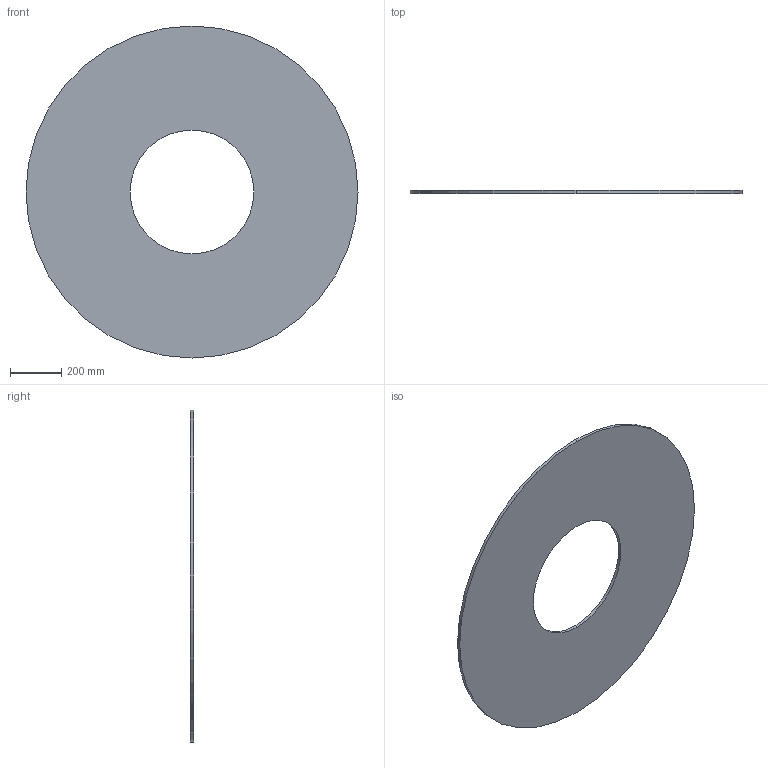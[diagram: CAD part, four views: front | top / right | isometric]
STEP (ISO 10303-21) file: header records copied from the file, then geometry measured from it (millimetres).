
FILE_DESCRIPTION (( 'STEP AP203' ), '1' );
FILE_NAME ('3D_R152_DN400_17305350.STEP', '2024-08-13T08:06:04', ( '' ), ( '' ), 'SwSTEP 2.0', 'SolidWorks 2024', '' );
FILE_SCHEMA (( 'CONFIG_CONTROL_DESIGN' ));
Length unit declared in the file: millimetre
Products named in the file (1): 3D_R152_DN400_17305350
Bounding box: 1294 x 12 x 1294 mm (x, y, z)
Volume: 13591585.4 mm3; surface area: 2332217.9 mm2
Topology: 1 solids, 1 shells, 6 faces, 12 edges, 8 vertices
Faces by surface type: cylinder 4, plane 2
Entity records: 245 total; most frequent: DIRECTION 34, CARTESIAN_POINT 27, ORIENTED_EDGE 24, AXIS2_PLACEMENT_3D 15, EDGE_CURVE 12, EDGE_LOOP 8, PERSON_AND_ORGANIZATION 8, VERTEX_POINT 8
